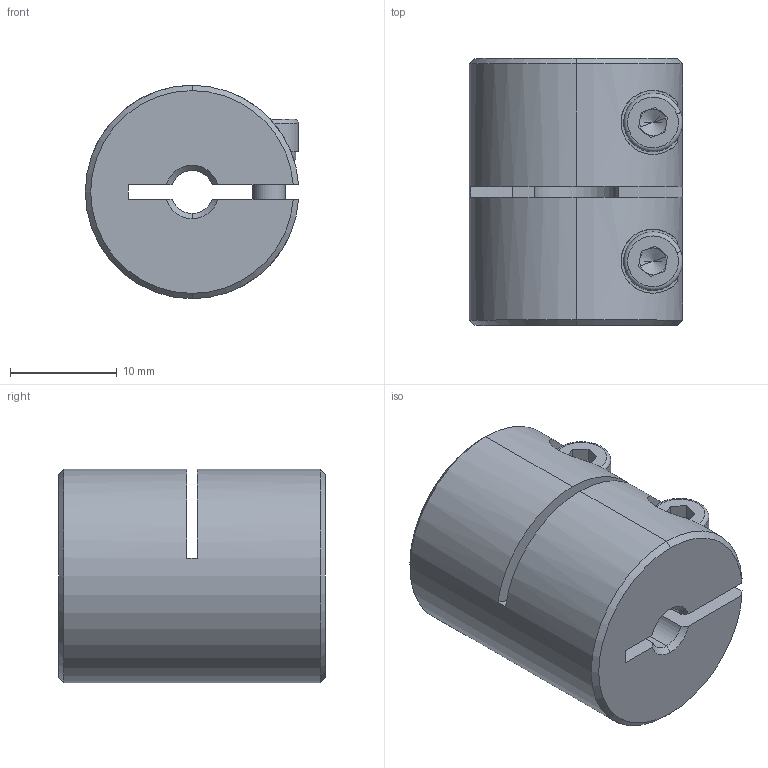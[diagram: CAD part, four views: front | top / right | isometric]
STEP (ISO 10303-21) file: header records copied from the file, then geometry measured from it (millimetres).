
FILE_DESCRIPTION (( 'STEP AP203' ), '1' );
FILE_NAME ('LL-B-D20L25-4-8.STEP', '2021-11-05T03:28:03', ( '' ), ( '' ), 'SwSTEP 2.0', 'SolidWorks 2018', '' );
FILE_SCHEMA (( 'CONFIG_CONTROL_DESIGN' ));
Length unit declared in the file: millimetre
Products named in the file (1): LL-B-D20L25-4-8
Bounding box: 19.98 x 25 x 20 mm (x, y, z)
Volume: 6475.6 mm3; surface area: 3628.8 mm2
Topology: 1 solids, 1 shells, 116 faces, 300 edges, 188 vertices
Faces by surface type: plane 53, cylinder 43, cone 16, torus 4
Entity records: 3789 total; most frequent: CARTESIAN_POINT 835, DIRECTION 630, ORIENTED_EDGE 592, EDGE_CURVE 296, AXIS2_PLACEMENT_3D 243, VERTEX_POINT 188, VECTOR 144, LINE 144
